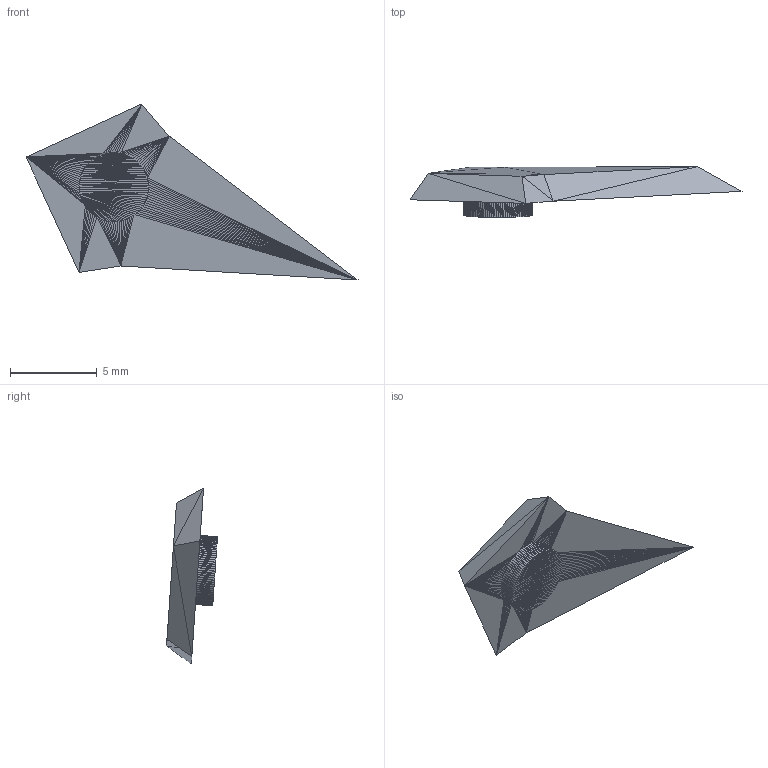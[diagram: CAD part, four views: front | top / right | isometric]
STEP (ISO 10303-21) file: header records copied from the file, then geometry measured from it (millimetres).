
FILE_DESCRIPTION((''),'2;1');
FILE_NAME('Dial Hand', '2025-03-27T07:27:17', (''), (''), 'ImageToStl.com STEP Converter','', '');
FILE_SCHEMA(('AUTOMOTIVE_DESIGN_CC2'));
Length unit declared in the file: metre
Products named in the file (1): product0
Bounding box: 19.18 x 2.95 x 10.16 mm (x, y, z)
Surface area: 249.5 mm2 (no closed solid volume)
Topology: 0 solids, 400 shells, 400 faces, 1200 edges, 202 vertices
Faces by surface type: plane 400
Entity records: 9639 total; most frequent: DIRECTION 2002, ORIENTED_EDGE 1200, EDGE_CURVE 1200, LINE 1200, VECTOR 1200, AXIS2_PLACEMENT_3D 401, STYLED_ITEM 401, FACE_SURFACE 400
